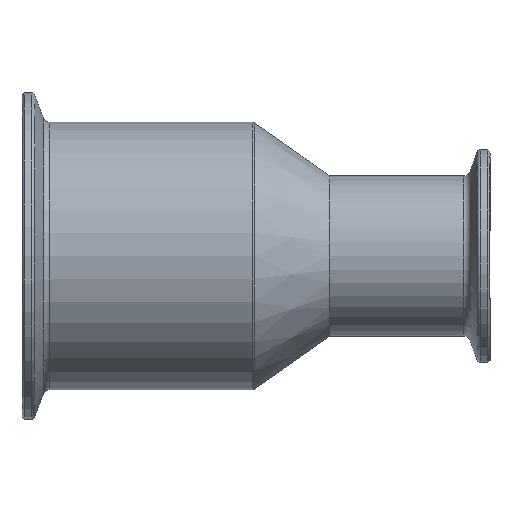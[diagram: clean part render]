
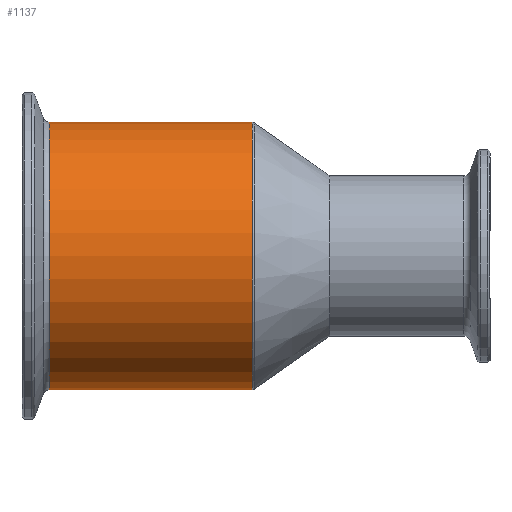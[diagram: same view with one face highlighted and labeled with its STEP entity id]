
A CAD part, top view. The second image highlights one B-rep face of the part: STEP entity #1137.
In plain terms, the highlighted cylindrical face has radius 31.75 mm (diameter 63.5 mm), a partial arc.
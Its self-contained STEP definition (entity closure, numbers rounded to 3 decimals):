
#62 = CARTESIAN_POINT ( 'NONE',  ( 0., 31.75, 0. ) ) ;
#66 = CARTESIAN_POINT ( 'NONE',  ( -56.49, -31.75, 0. ) ) ;
#91 = ORIENTED_EDGE ( 'NONE', *, *, #1461, .T. ) ;
#128 = VERTEX_POINT ( 'NONE', #1535 ) ;
#178 = CARTESIAN_POINT ( 'NONE',  ( -104.607, 31.75, 0. ) ) ;
#240 = ORIENTED_EDGE ( 'NONE', *, *, #1355, .F. ) ;
#266 = CARTESIAN_POINT ( 'NONE',  ( -56.49, 0., 0. ) ) ;
#306 = VERTEX_POINT ( 'NONE', #1174 ) ;
#314 = LINE ( 'NONE', #615, #634 ) ;
#372 = ORIENTED_EDGE ( 'NONE', *, *, #930, .T. ) ;
#379 = FACE_OUTER_BOUND ( 'NONE', #1009, .T. ) ;
#414 = AXIS2_PLACEMENT_3D ( 'NONE', #1240, #1504, #1234 ) ;
#441 = VECTOR ( 'NONE', #623, 1000. ) ;
#549 = DIRECTION ( 'NONE',  ( 0., -1., 0. ) ) ;
#591 = CIRCLE ( 'NONE', #1665, 31.75 ) ;
#594 = DIRECTION ( 'NONE',  ( 1., 0., 0. ) ) ;
#615 = CARTESIAN_POINT ( 'NONE',  ( 0., -31.75, 0. ) ) ;
#623 = DIRECTION ( 'NONE',  ( 1., 0., 0. ) ) ;
#634 = VECTOR ( 'NONE', #594, 1000. ) ;
#698 = VERTEX_POINT ( 'NONE', #66 ) ;
#775 = CIRCLE ( 'NONE', #793, 31.75 ) ;
#792 = LINE ( 'NONE', #62, #441 ) ;
#793 = AXIS2_PLACEMENT_3D ( 'NONE', #1367, #1114, #795 ) ;
#795 = DIRECTION ( 'NONE',  ( 0., 1., 0. ) ) ;
#806 = DIRECTION ( 'NONE',  ( -1., 0., 0. ) ) ;
#930 = EDGE_CURVE ( 'NONE', #698, #306, #591, .T. ) ;
#1009 = EDGE_LOOP ( 'NONE', ( #1373, #91, #372, #240 ) ) ;
#1114 = DIRECTION ( 'NONE',  ( 1., 0., 0. ) ) ;
#1137 = ADVANCED_FACE ( 'NONE', ( #379 ), #1409, .T. ) ;
#1174 = CARTESIAN_POINT ( 'NONE',  ( -56.49, 31.75, 0. ) ) ;
#1234 = DIRECTION ( 'NONE',  ( 0., 1., 0. ) ) ;
#1236 = VERTEX_POINT ( 'NONE', #178 ) ;
#1240 = CARTESIAN_POINT ( 'NONE',  ( 0., 0., 0. ) ) ;
#1355 = EDGE_CURVE ( 'NONE', #1236, #306, #792, .T. ) ;
#1367 = CARTESIAN_POINT ( 'NONE',  ( -104.607, 0., 0. ) ) ;
#1373 = ORIENTED_EDGE ( 'NONE', *, *, #1645, .T. ) ;
#1409 = CYLINDRICAL_SURFACE ( 'NONE', #414, 31.75 ) ;
#1461 = EDGE_CURVE ( 'NONE', #128, #698, #314, .T. ) ;
#1504 = DIRECTION ( 'NONE',  ( 1., 0., 0. ) ) ;
#1535 = CARTESIAN_POINT ( 'NONE',  ( -104.607, -31.75, 0. ) ) ;
#1645 = EDGE_CURVE ( 'NONE', #1236, #128, #775, .T. ) ;
#1665 = AXIS2_PLACEMENT_3D ( 'NONE', #266, #806, #549 ) ;
